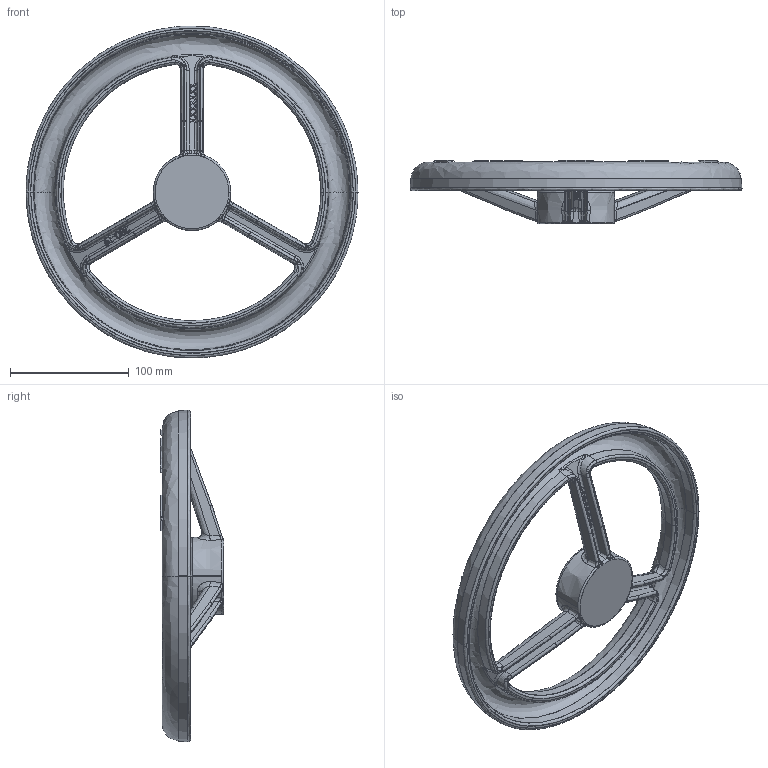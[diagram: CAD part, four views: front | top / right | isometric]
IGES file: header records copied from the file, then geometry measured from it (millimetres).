
Start section: SolidWorks IGES file using analytic representation for surfaces
Global section: file name: C:\work-andy\PCF360\S08\0810001000.IGS; native system: SolidWorks 2008; preprocessor: SolidWorks 2008; author: ch_anji; date: 091127.144136; units: millimetre
Bounding box: 279.62 x 53.5 x 279.62 mm (x, y, z)
Surface area: 124337.2 mm2 (no closed solid volume)
Topology: 0 solids, 0 shells, 733 faces, 7542 edges, 7527 vertices
Faces by surface type: bspline 622, revolution 111
